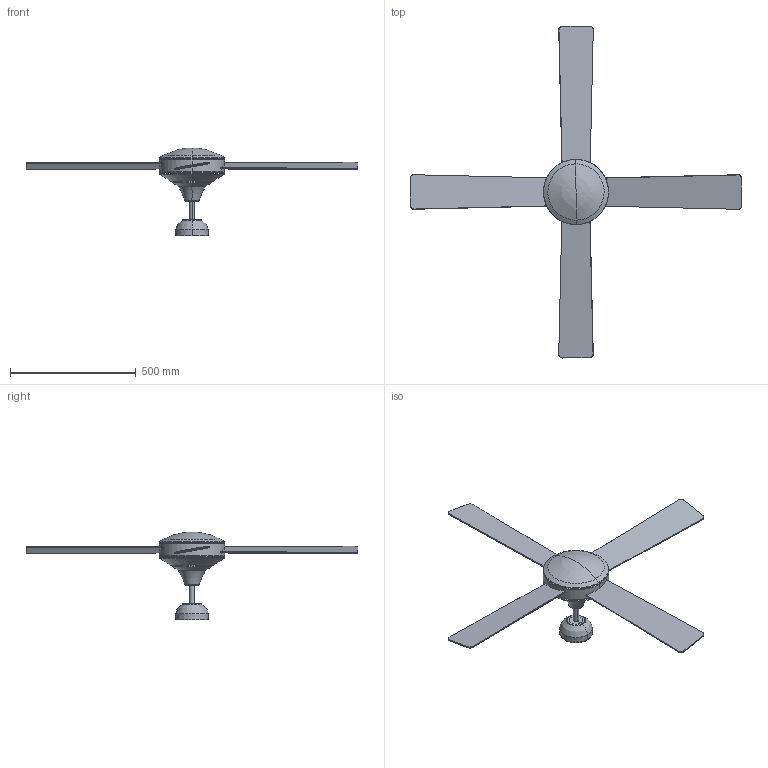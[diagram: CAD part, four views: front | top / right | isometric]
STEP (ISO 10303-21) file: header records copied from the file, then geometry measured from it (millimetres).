
FILE_DESCRIPTION(/* description */ (''),/* implementation_level */ '2;1');
FILE_NAME(/* name */ 'C:\Users\FrancoSartori\Documents\FARO\01_En Proceso\00_MALLORCA\03_Publicación\33292.stp',/* time_stamp */ '2021-08-02T09:17:00+02:00',/* author */ ('FrancoSartori'),/* organization */ (''),/* preprocessor_version */ 'ST-DEVELOPER v18.1',/* originating_system */ 'AutoCAD Mechanical',/* authorisation */ '');
FILE_SCHEMA (('AUTOMOTIVE_DESIGN { 1 0 10303 214 3 1 1 }'));
Length unit declared in the file: millimetre
Products named in the file (2): Product; 33350 33292 33351_ - fan-465369-Export
Assembly tree (1 placements, depth 2):
  Product
    33350 33292 33351_ - fan-465369-Export
Bounding box: 1319.99 x 1319.99 x 349.67 mm (x, y, z)
Volume: 7395937 mm3; surface area: 1669147.2 mm2
Topology: 13 solids, 13 shells, 264 faces, 667 edges, 425 vertices
Faces by surface type: plane 154, cylinder 74, torus 20, cone 8, bspline 8
Entity records: 10491 total; most frequent: CARTESIAN_POINT 4182, ORIENTED_EDGE 1330, DIRECTION 1259, EDGE_CURVE 665, AXIS2_PLACEMENT_3D 473, VERTEX_POINT 425, LINE 313, VECTOR 313
